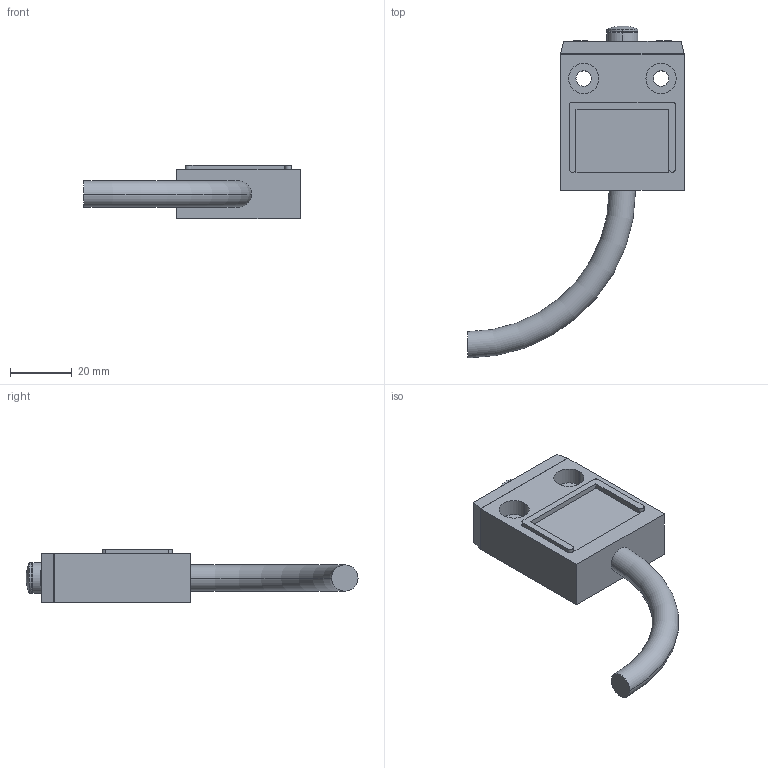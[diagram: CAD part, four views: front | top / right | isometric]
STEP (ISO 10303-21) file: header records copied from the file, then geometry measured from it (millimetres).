
FILE_DESCRIPTION (( 'STEP AP203' ), '1' );
FILE_NAME ('TZ-3101.STEP', '2019-03-27T12:50:36', ( '' ), ( '' ), 'SwSTEP 2.0', 'SolidWorks 2012', '' );
FILE_SCHEMA (( 'CONFIG_CONTROL_DESIGN' ));
Length unit declared in the file: millimetre
Products named in the file (1): TZ-3101
Bounding box: 70 x 107.35 x 17.3 mm (x, y, z)
Volume: 33899.6 mm3; surface area: 10224.3 mm2
Topology: 1 solids, 1 shells, 116 faces, 297 edges, 196 vertices
Faces by surface type: plane 75, cylinder 30, torus 10, sphere 1
Entity records: 3623 total; most frequent: CARTESIAN_POINT 701, DIRECTION 588, ORIENTED_EDGE 588, EDGE_CURVE 294, AXIS2_PLACEMENT_3D 205, VERTEX_POINT 194, VECTOR 178, LINE 178
